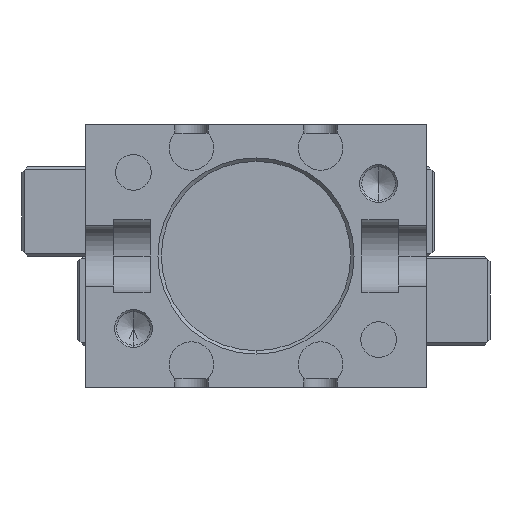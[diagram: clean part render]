
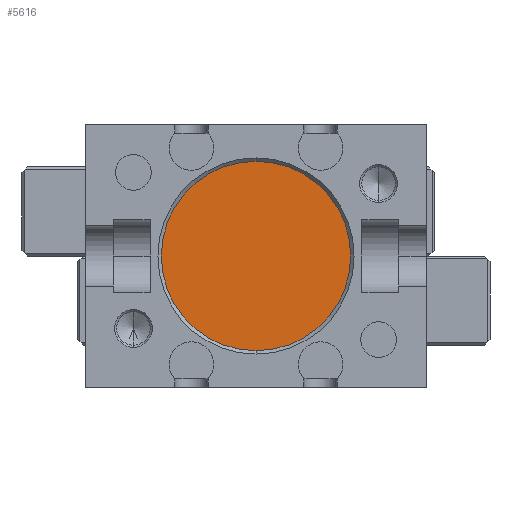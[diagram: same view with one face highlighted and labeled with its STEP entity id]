
A CAD part, front view. The second image highlights one B-rep face of the part: STEP entity #5616.
In plain terms, the highlighted planar face has unit normal (0, -1, 0).
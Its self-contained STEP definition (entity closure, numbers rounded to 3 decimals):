
#3438 = DIRECTION ( 'NONE',  ( 0., 0., -1. ) ) ;
#5616 = ADVANCED_FACE ( 'NONE', ( #14870 ), #47756, .T. ) ;
#9872 = AXIS2_PLACEMENT_3D ( 'NONE', #21755, #25601, #3438 ) ;
#11570 = AXIS2_PLACEMENT_3D ( 'NONE', #11776, #37647, #15483 ) ;
#11776 = CARTESIAN_POINT ( 'NONE',  ( 0., 2., 0. ) ) ;
#14870 = FACE_OUTER_BOUND ( 'NONE', #46978, .T. ) ;
#15483 = DIRECTION ( 'NONE',  ( 0., 0., -1. ) ) ;
#16599 = DIRECTION ( 'NONE',  ( 0., -1., 0. ) ) ;
#17878 = CIRCLE ( 'NONE', #31794, 8.5 ) ;
#18027 = EDGE_CURVE ( 'NONE', #18944, #41246, #25527, .T. ) ;
#18944 = VERTEX_POINT ( 'NONE', #33384 ) ;
#21755 = CARTESIAN_POINT ( 'NONE',  ( 0., 2., 0. ) ) ;
#25527 = CIRCLE ( 'NONE', #11570, 8.5 ) ;
#25601 = DIRECTION ( 'NONE',  ( 0., -1., 0. ) ) ;
#28135 = ORIENTED_EDGE ( 'NONE', *, *, #18027, .T. ) ;
#31794 = AXIS2_PLACEMENT_3D ( 'NONE', #38764, #16599, #42475 ) ;
#33384 = CARTESIAN_POINT ( 'NONE',  ( 0., 2., 8.5 ) ) ;
#34999 = ORIENTED_EDGE ( 'NONE', *, *, #37336, .T. ) ;
#37336 = EDGE_CURVE ( 'NONE', #41246, #18944, #17878, .T. ) ;
#37647 = DIRECTION ( 'NONE',  ( 0., -1., 0. ) ) ;
#38764 = CARTESIAN_POINT ( 'NONE',  ( 0., 2., 0. ) ) ;
#41246 = VERTEX_POINT ( 'NONE', #46579 ) ;
#42475 = DIRECTION ( 'NONE',  ( 0., 0., -1. ) ) ;
#46579 = CARTESIAN_POINT ( 'NONE',  ( 0., 2., -8.5 ) ) ;
#46978 = EDGE_LOOP ( 'NONE', ( #34999, #28135 ) ) ;
#47756 = PLANE ( 'NONE',  #9872 ) ;
